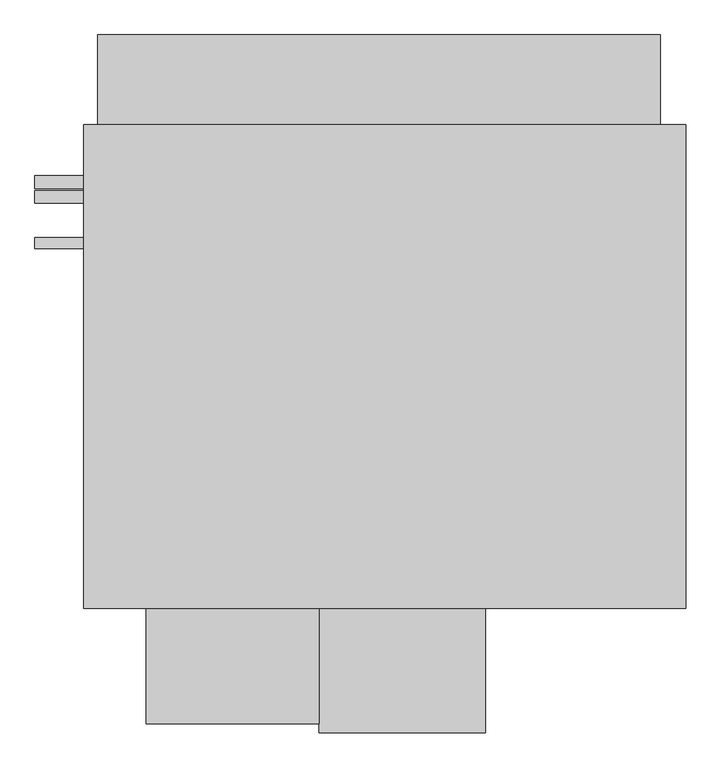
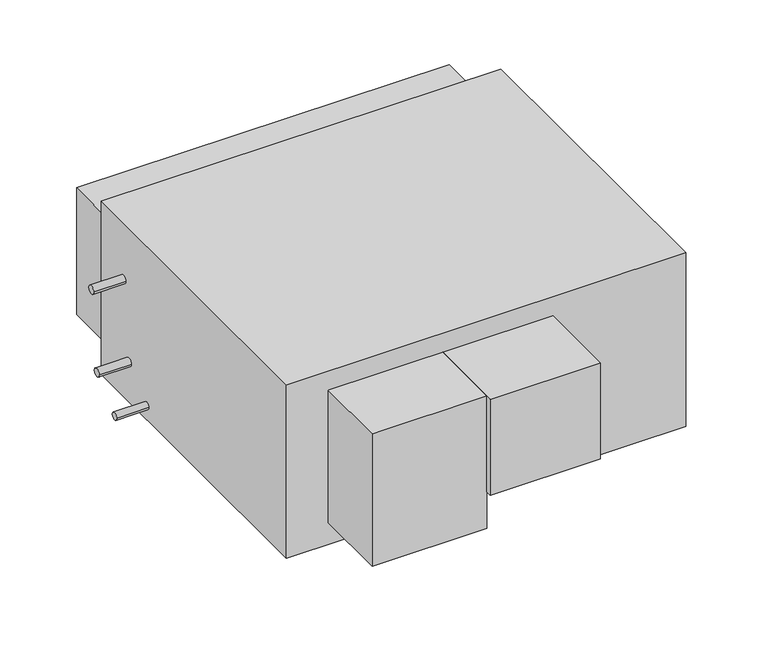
"""IFC4 building model written with IfcOpenShell, lengths in millimetres: proxy geometry, Horizontal_Direct_Drive_Blower_Coil_Unit_-_42DHA_-_CARRIER_-_2-Pipe_Cool-EHeat_LH_2022 : Size 16 - 460v/60Hz/3Ph - 8 Row 16.0kW LH."""

from ifc_helpers import new_model, si_unit, point, frame, frame_2d, origin, place, context, project, spatial, polyline, circle_curve, trimmed, segment, composite_curve, outline, extrude, source, transform, mapped, element, save


def mechanical_equipment_856d1f65(model_context):
    return source(origin(), model_context, "Body", "SweptSolid", [
        extrude(outline(composite_curve([segment(trimmed(circle_curve(frame_2d((377.825, -177.8)), 12.7), [point((365.125, -177.8))], [point((390.525, -177.8))], False, "CARTESIAN"), True, "CONTINUOUS"), segment(trimmed(circle_curve(frame_2d((377.825, -177.8)), 12.7), [point((390.525, -177.8))], [point((365.125, -177.8))], False, "CARTESIAN"), True, "CONTINUOUS")], self_intersect=False)), frame((-1163.1025559, 0.0, 0.0), z_axis=(1.0, 0.0, 0.0), x_axis=(0.0, 1.0, 0.0)), (0.0, 0.0, 1.0), 96.3025559),
        extrude(outline(composite_curve([segment(trimmed(circle_curve(frame_2d((348.9715397, -422.2558174)), 12.7), [point((336.2715397, -422.2558174))], [point((361.6715397, -422.2558174))], False, "CARTESIAN"), True, "CONTINUOUS"), segment(trimmed(circle_curve(frame_2d((348.9715397, -422.2558174)), 12.7), [point((361.6715397, -422.2558174))], [point((336.2715397, -422.2558174))], False, "CARTESIAN"), True, "CONTINUOUS")], self_intersect=False)), frame((-1163.1025559, 0.0, 0.0), z_axis=(1.0, 0.0, 0.0), x_axis=(0.0, 1.0, 0.0)), (0.0, 0.0, 1.0), 96.3025559),
        extrude(outline(composite_curve([segment(trimmed(circle_curve(frame_2d((257.175, -504.8058174)), 11.1125), [point((246.0625, -504.8058174))], [point((268.2875, -504.8058174))], False, "CARTESIAN"), True, "CONTINUOUS"), segment(trimmed(circle_curve(frame_2d((257.175, -504.8058174)), 11.1125), [point((268.2875, -504.8058174))], [point((246.0625, -504.8058174))], False, "CARTESIAN"), True, "CONTINUOUS")], self_intersect=False)), frame((-1163.1025559, 0.0, 0.0), z_axis=(1.0, 0.0, 0.0), x_axis=(0.0, 1.0, 0.0)), (0.0, 0.0, 1.0), 96.3025559),
        extrude(outline(polyline([(127.0, 492.125), (127.0, -466.725), (-1066.8, -466.725), (-1066.8, 492.125), (127.0, 492.125)])), frame((0.0, 0.0, -549.2558174), z_axis=(0.0, 0.0, 1.0), x_axis=(1.0, 0.0, 0.0)), (0.0, 0.0, 1.0), 549.2558174),
        extrude(outline(polyline([(-600.075, -695.325), (-942.975, -695.325), (-942.975, -466.725), (-600.075, -466.725), (-600.075, -695.325)])), frame((0.0, 0.0, -479.4058174), z_axis=(0.0, 0.0, 1.0), x_axis=(1.0, 0.0, 0.0)), (0.0, 0.0, 1.0), 419.1),
        extrude(outline(polyline([(-1038.225, 669.925), (76.2, 669.925), (76.2, 492.125), (-1038.225, 492.125), (-1038.225, 669.925)])), frame((0.0, 0.0, -476.2308174), z_axis=(0.0, 0.0, 1.0), x_axis=(1.0, 0.0, 0.0)), (0.0, 0.0, 1.0), 400.05),
        extrude(outline(polyline([(-269.875, -712.7875), (-600.075, -712.7875), (-600.075, -466.725), (-269.875, -466.725), (-269.875, -712.7875)])), frame((0.0, 0.0, -365.1058174), z_axis=(0.0, 0.0, 1.0), x_axis=(1.0, 0.0, 0.0)), (0.0, 0.0, 1.0), 304.8),
    ])


if __name__ == "__main__":
    model = new_model("IFC4")
    model_context = context("Model", 3, world=origin())
    ifc_project = project(units=[si_unit("LENGTHUNIT", "METRE", prefix="MILLI")], contexts=[model_context])
    site = spatial("IfcSite", under=ifc_project)
    building = spatial("IfcBuilding", under=site)
    placement = place(None, origin())
    mechanical_equipment_shape = mechanical_equipment_856d1f65(model_context)
    element("IfcBuildingElementProxy", 1, Name="Horizontal_Direct_Drive_Blower_Coil_Unit_-_42DHA_-_CARRIER_-_2-Pipe_Cool-EHeat_LH_2022 : Size 16 - 460v/60Hz/3Ph - 8 Row 16.0kW LH", ObjectType="Horizontal_Direct_Drive_Blower_Coil_Unit_-_42DHA_-_CARRIER_-_2-Pipe_Cool-EHeat_LH_2022 : Size 16 - 460v/60Hz/3Ph - 8 Row 16.0kW LH", at=placement, inside=building, context=model_context, shape_type="MappedRepresentation", body=[
        mapped(mechanical_equipment_shape, transform((0.0, 0.0, 0.0), x_axis=(1.0, 0.0, 0.0), y_axis=(0.0, 1.0, 0.0), z_axis=(0.0, 0.0, 1.0))),
    ])
    save(model, "model.ifc")
